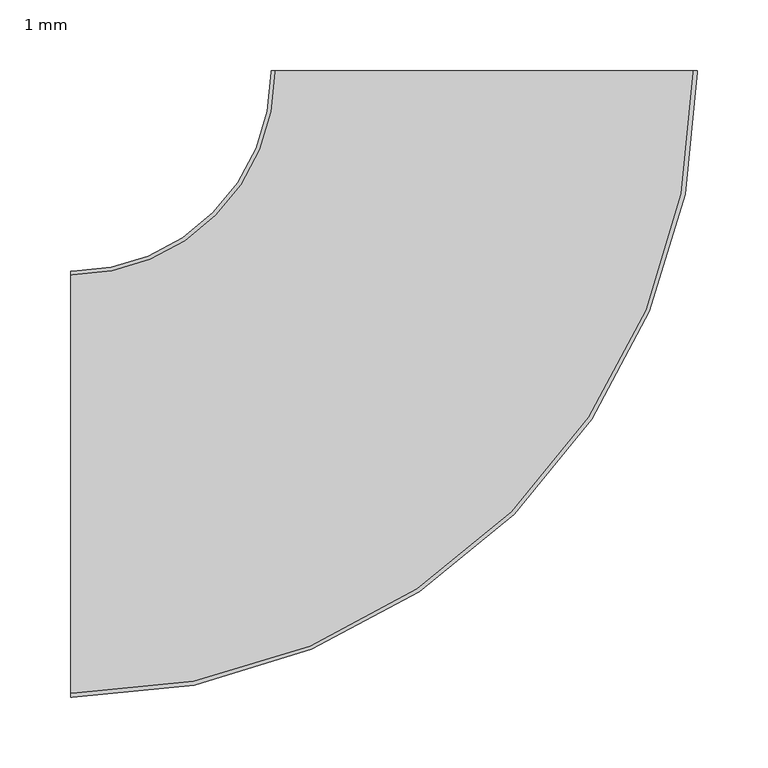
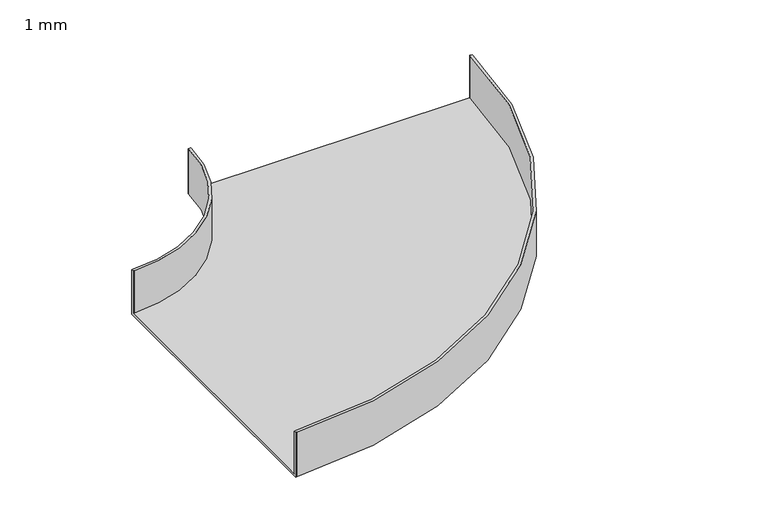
"""IFC4 building model written with IfcOpenShell, lengths in millimetres: cable carrier fitting geometry, BAKS_Kolano_koryta (R140) : 1 mm."""

from ifc_helpers import new_model, si_unit, frame, origin, place, context, project, spatial, polyline, circle_curve, source, transform, mapped, element, save
from ifc_brep_helpers import plane_surface, cylinder_surface, revolved_surface, advanced_brep


def cable_carrier_fitting_1_mm_6bbfc198(model_context):
    return source(origin(), model_context, "Body", "AdvancedBrep", [
        advanced_brep(
        [(-291.0, -150.0, -25.0), (-291.0, -150.0, 25.0), (-291.0, -147.46, 25.0), (-291.0, -147.46, -22.46), (-291.0, 147.46, -22.46), (-291.0, 147.46, 25.0), (-291.0, 150.0, 25.0), (-291.0, 150.0, -25.0), (150.0, 291.0, -25.0), (-150.0, 291.0, -25.0), (-150.0, 291.0, 25.0), (-147.46, 291.0, 25.0), (-147.46, 291.0, -22.46), (147.46, 291.0, -22.46), (147.46, 291.0, 25.0), (150.0, 291.0, 25.0), (-290.0, -150.0, -25.0), (-290.0, -150.0, 25.0), (150.0, 290.0, 25.0), (147.46, 290.0, 25.0), (-290.0, -147.46, 25.0), (-290.0, -147.46, -22.46), (147.46, 290.0, -22.46), (-147.46, 290.0, -22.46), (-290.0, 147.46, -22.46), (-290.0, 147.46, 25.0), (-147.46, 290.0, 25.0), (-150.0, 290.0, 25.0), (-290.0, 150.0, 25.0), (-290.0, 150.0, -25.0), (-150.0, 290.0, -25.0), (150.0, 290.0, -25.0)],
        [
            (0, 1),
            (1, 2),
            (2, 3),
            (3, 4),
            (4, 5),
            (5, 6),
            (6, 7),
            (7, 0),
            (8, 9),
            (9, 10),
            (10, 11),
            (11, 12),
            (12, 13),
            (13, 14),
            (14, 15),
            (15, 8),
            (0, 16),
            (16, 17),
            (17, 1),
            (17, 18, circle_curve(frame((-290.0, 290.0, 25.0), z_axis=(0.0, 0.0, 1.0), x_axis=(0.0, -1.0, 0.0)), 440.0)),
            (18, 15),
            (14, 19),
            (19, 20, circle_curve(frame((-290.0, 290.0, 25.0), z_axis=(0.0, 0.0, -1.0), x_axis=(0.0, -1.0, 0.0)), 437.46)),
            (20, 2),
            (20, 21),
            (21, 3),
            (21, 22, circle_curve(frame((-290.0, 290.0, -22.46), z_axis=(0.0, 0.0, 1.0), x_axis=(0.0, -1.0, 0.0)), 437.46)),
            (22, 13),
            (12, 23),
            (23, 24, circle_curve(frame((-290.0, 290.0, -22.46), z_axis=(0.0, 0.0, -1.0), x_axis=(0.0, -1.0, 0.0)), 142.54)),
            (24, 4),
            (24, 25),
            (25, 5),
            (25, 26, circle_curve(frame((-290.0, 290.0, 25.0), z_axis=(0.0, 0.0, 1.0), x_axis=(0.0, -1.0, 0.0)), 142.54)),
            (26, 11),
            (10, 27),
            (27, 28, circle_curve(frame((-290.0, 290.0, 25.0), z_axis=(0.0, 0.0, -1.0), x_axis=(0.0, -1.0, 0.0)), 140.0)),
            (28, 6),
            (28, 29),
            (29, 7),
            (29, 30, circle_curve(frame((-290.0, 290.0, -25.0), z_axis=(0.0, 0.0, 1.0), x_axis=(0.0, -1.0, 0.0)), 140.0)),
            (30, 9),
            (8, 31),
            (31, 16, circle_curve(frame((-290.0, 290.0, -25.0), z_axis=(0.0, 0.0, -1.0), x_axis=(0.0, -1.0, 0.0)), 440.0)),
            (31, 18),
            (19, 22),
            (23, 26),
            (27, 30),
        ],
        [
            plane_surface(frame((-291.0, 0.0, 0.0), z_axis=(-1.0, -4.923661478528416e-12, 0.0), x_axis=(0.0, 0.0, 1.0))),
            plane_surface(frame((0.0, 291.0, 0.0), z_axis=(0.0, 1.0, 0.0), x_axis=(0.0, 0.0, 1.0))),
            plane_surface(frame((-291.0, -150.0, -25.0), z_axis=(4.9405812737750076e-12, -1.0, 0.0), x_axis=(1.0, 4.9405812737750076e-12, 0.0))),
            plane_surface(frame((-291.0, -150.0, 25.0), z_axis=(0.0, 0.0, 1.0), x_axis=(1.0, 4.9405812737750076e-12, 0.0))),
            plane_surface(frame((-291.0, -147.46, 25.0), z_axis=(-4.906741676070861e-12, 1.0, 0.0), x_axis=(1.0, 4.906741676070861e-12, 0.0))),
            plane_surface(frame((-291.0, -147.46, -22.46), z_axis=(0.0, 0.0, 1.0), x_axis=(1.0, 4.906741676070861e-12, 0.0))),
            plane_surface(frame((-291.0, 147.46, -22.46), z_axis=(4.923661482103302e-12, -1.0, 0.0), x_axis=(1.0, 4.923661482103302e-12, 0.0))),
            plane_surface(frame((-291.0, 147.46, 25.0), z_axis=(0.0, 0.0, 1.0), x_axis=(1.0, 4.923661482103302e-12, 0.0))),
            plane_surface(frame((-291.0, 150.0, 25.0), z_axis=(-4.9236614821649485e-12, 1.0, 0.0), x_axis=(1.0, 4.9236614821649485e-12, 0.0))),
            plane_surface(frame((-291.0, 150.0, -25.0), z_axis=(0.0, 0.0, -1.0), x_axis=(1.0, 4.9236614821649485e-12, 0.0))),
            cylinder_surface(frame((-290.0, 290.0, 0.0), z_axis=(0.0, 0.0, 1.0), x_axis=(0.0, -1.0, 0.0)), 440.0),
            revolved_surface(polyline([(-290.0, -147.45999999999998, 25.0), (-290.0, -147.45999999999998, -22.46)]), (-290.0, 290.0, 0.0), (0.0, 0.0, 1.0)),
            cylinder_surface(frame((-290.0, 290.0, 0.0), z_axis=(0.0, 0.0, 1.0), x_axis=(0.0, -1.0, 0.0)), 142.54),
            revolved_surface(polyline([(-290.0, 150.0, 25.0), (-290.0, 150.0, -25.0)]), (-290.0, 290.0, 0.0), (0.0, 0.0, 1.0)),
            plane_surface(frame((150.0, 290.0, -25.0), z_axis=(1.0, 0.0, 0.0), x_axis=(0.0, 1.0, 0.0))),
            plane_surface(frame((147.46, 290.0, 25.0), z_axis=(-1.0, 0.0, 0.0), x_axis=(0.0, 1.0, 0.0))),
            plane_surface(frame((-147.46, 290.0, -22.46), z_axis=(1.0, 0.0, 0.0), x_axis=(0.0, 1.0, 0.0))),
            plane_surface(frame((-150.0, 290.0, 25.0), z_axis=(-1.0, 0.0, 0.0), x_axis=(0.0, 1.0, 0.0))),
        ],
        [
            (0, [[1, 2, 3, 4, 5, 6, 7, 8]]),
            (1, [[9, 10, 11, 12, 13, 14, 15, 16]]),
            (2, [[-1, 17, 18, 19]]),
            (3, [[-2, -19, 20, 21, -15, 22, 23, 24]]),
            (4, [[-3, -24, 25, 26]]),
            (5, [[-4, -26, 27, 28, -13, 29, 30, 31]]),
            (6, [[-5, -31, 32, 33]]),
            (7, [[-6, -33, 34, 35, -11, 36, 37, 38]]),
            (8, [[-7, -38, 39, 40]]),
            (9, [[-8, -40, 41, 42, -9, 43, 44, -17]]),
            (10, [[-20, -18, -44, 45]]),
            (11, [[-27, -25, -23, 46]]),
            (12, [[-34, -32, -30, 47]]),
            (13, [[-41, -39, -37, 48]]),
            (14, [[-45, -43, -16, -21]]),
            (15, [[-46, -22, -14, -28]]),
            (16, [[-47, -29, -12, -35]]),
            (17, [[-48, -36, -10, -42]]),
        ],
    ),
    ])


if __name__ == "__main__":
    model = new_model("IFC4")
    model_context = context("Model", 3, world=origin())
    ifc_project = project(units=[si_unit("LENGTHUNIT", "METRE", prefix="MILLI")], contexts=[model_context])
    site = spatial("IfcSite", under=ifc_project)
    building = spatial("IfcBuilding", under=site)
    placement = place(None, origin())
    cable_carrier_fitting_1_mm_shape = cable_carrier_fitting_1_mm_6bbfc198(model_context)
    element("IfcCableCarrierFitting", 1, ObjectType="BAKS_Kolano_koryta (R140) : 1 mm", at=placement, inside=building, context=model_context, shape_type="MappedRepresentation", body=[
        mapped(cable_carrier_fitting_1_mm_shape, transform((0.0, 0.0, 0.0), x_axis=(1.0, 0.0, 0.0), y_axis=(0.0, 1.0, 0.0), z_axis=(0.0, 0.0, 1.0))),
    ])
    save(model, "model.ifc")
